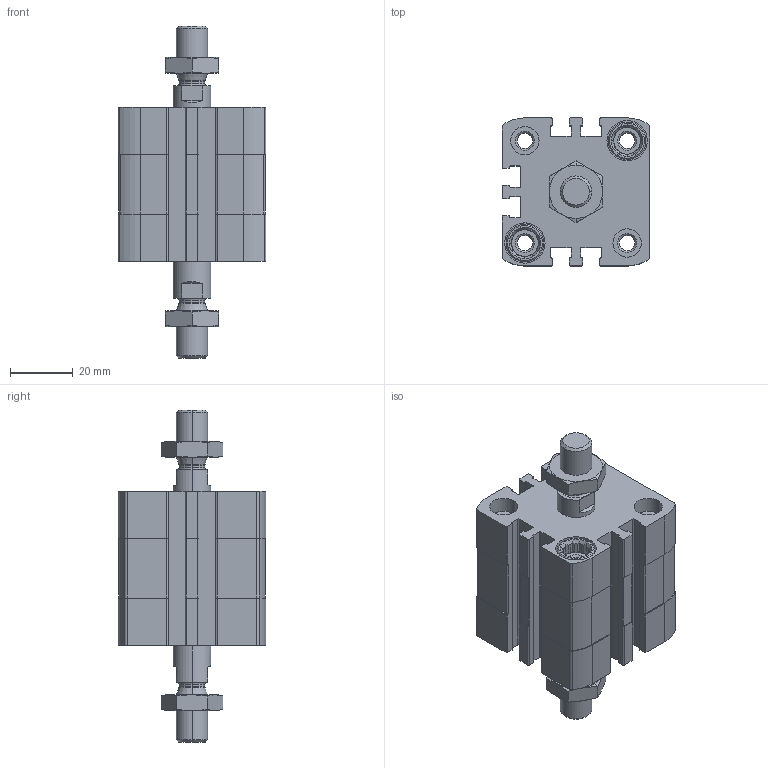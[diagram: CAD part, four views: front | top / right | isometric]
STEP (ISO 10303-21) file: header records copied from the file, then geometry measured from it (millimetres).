
FILE_DESCRIPTION (( 'STEP AP203' ), '1' );
FILE_NAME ('CCN32-5-P.STEP', '2020-06-22T18:45:36', ( '' ), ( '' ), 'SwSTEP 2.0', 'SolidWorks 2019', '' );
FILE_SCHEMA (( 'CONFIG_CONTROL_DESIGN' ));
Length unit declared in the file: millimetre
Products named in the file (1): CCN32-5-P
Bounding box: 47 x 47 x 105.5 mm (x, y, z)
Volume: 91293.1 mm3; surface area: 34217.1 mm2
Topology: 4 solids, 4 shells, 536 faces, 1416 edges, 920 vertices
Faces by surface type: plane 288, cylinder 180, cone 60, torus 8
Entity records: 17371 total; most frequent: CARTESIAN_POINT 3741, DIRECTION 2898, ORIENTED_EDGE 2832, EDGE_CURVE 1416, AXIS2_PLACEMENT_3D 1069, VERTEX_POINT 920, LINE 760, VECTOR 760
